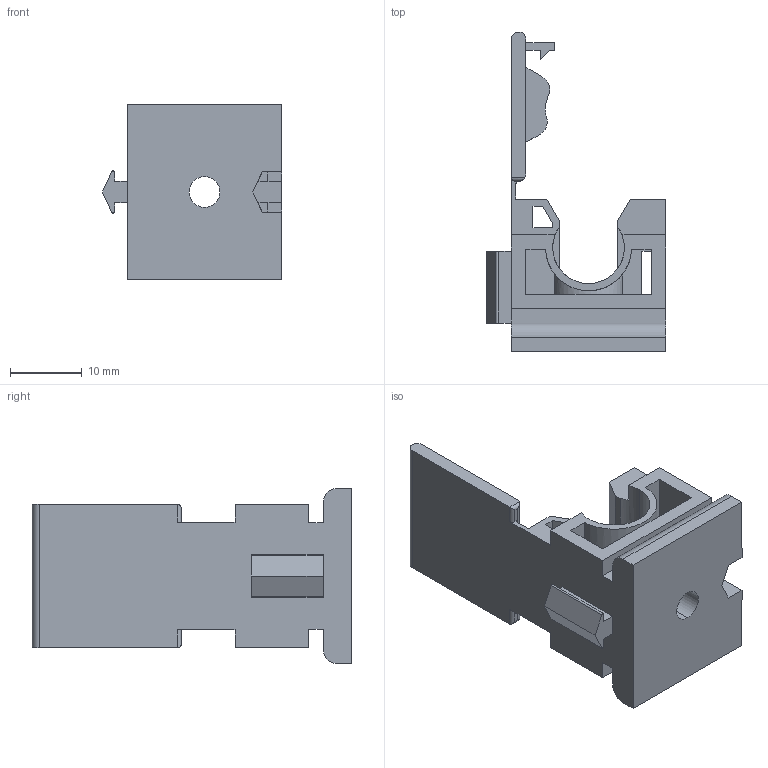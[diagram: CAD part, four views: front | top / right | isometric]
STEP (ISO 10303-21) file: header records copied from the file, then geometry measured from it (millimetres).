
FILE_DESCRIPTION (( 'STEP AP203' ), '1' );
FILE_NAME ('WQSC-AD10.0.STEP', '2016-03-25T05:03:54', ( '' ), ( '' ), 'SwSTEP 2.0', 'SolidWorks 2010', '' );
FILE_SCHEMA (( 'CONFIG_CONTROL_DESIGN' ));
Length unit declared in the file: millimetre
Products named in the file (1): WQSC-AD10.0
Bounding box: 25 x 44.6 x 24.5 mm (x, y, z)
Volume: 6117.5 mm3; surface area: 5680.6 mm2
Topology: 1 solids, 1 shells, 122 faces, 352 edges, 234 vertices
Faces by surface type: plane 92, cylinder 30
Entity records: 4239 total; most frequent: CARTESIAN_POINT 900, ORIENTED_EDGE 704, DIRECTION 646, EDGE_CURVE 352, LINE 282, VECTOR 282, VERTEX_POINT 234, AXIS2_PLACEMENT_3D 182
